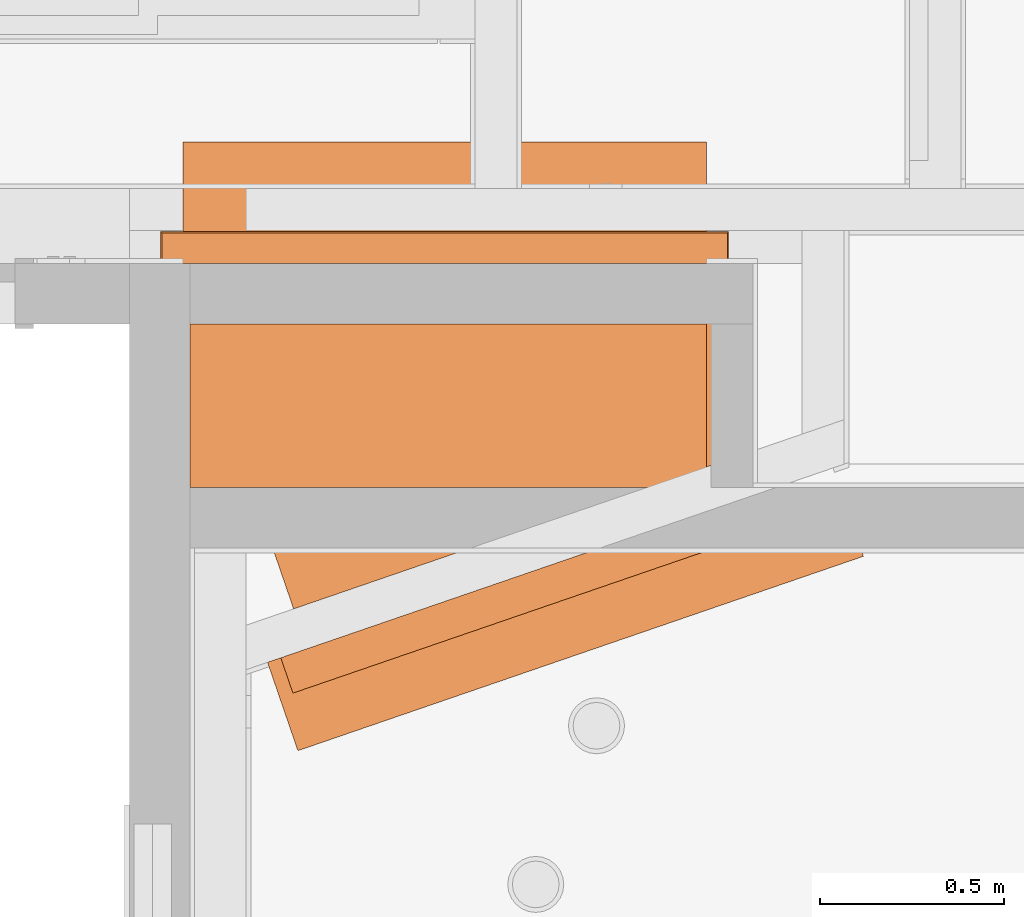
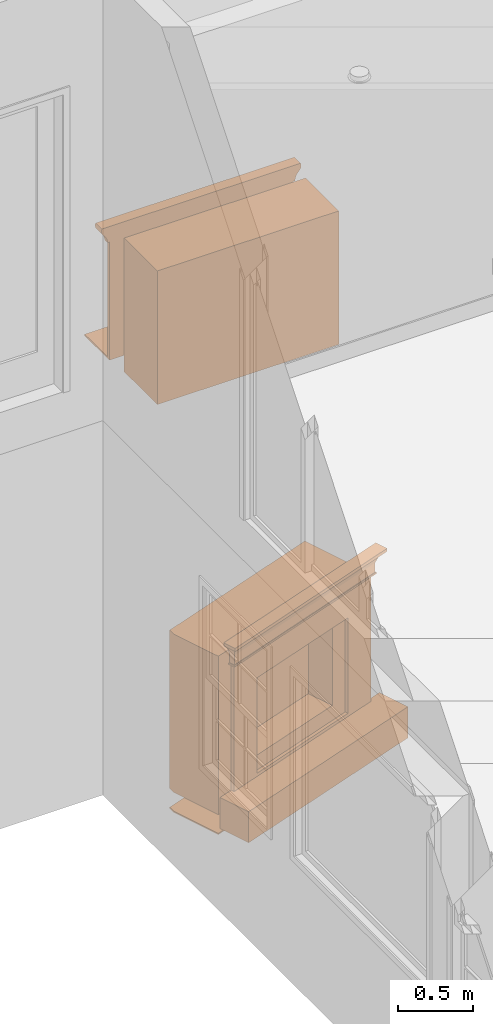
# One storey, part 76 of 81: 2 proxies.
"""IFC2X3 building model written with IfcOpenShell, lengths in feet."""

from ifc_helpers import new_model, entity, si_unit, converted_unit, derived_unit, direction, frame, origin, place, context, subcontext, project, spatial, faceted_brep, source, transform, mapped, material, material_list, type_object, type_shapes, element, save


model = new_model("IFC2X3")

# Units and contexts
model_context = context("Model", 3, precision=0.0001, world=origin(), true_north=direction((6.12303176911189e-17, 1.0)))
body_context = subcontext(model_context, "Body", "Model", "MODEL_VIEW")
ifc_project = project(units=[converted_unit("LENGTHUNIT", "FOOT", entity("IfcRatioMeasure", 0.3048), si_unit("LENGTHUNIT", "METRE"), dimensions=[1, 0, 0, 0, 0, 0, 0]), converted_unit("AREAUNIT", "SQUARE FOOT", entity("IfcRatioMeasure", 0.09290304), si_unit("AREAUNIT", "SQUARE_METRE"), dimensions=[2, 0, 0, 0, 0, 0, 0]), converted_unit("VOLUMEUNIT", "CUBIC FOOT", entity("IfcRatioMeasure", 0.028316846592), si_unit("VOLUMEUNIT", "CUBIC_METRE"), dimensions=[3, 0, 0, 0, 0, 0, 0]), converted_unit("PLANEANGLEUNIT", "DEGREE", entity("IfcRatioMeasure", 0.0174532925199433), si_unit("PLANEANGLEUNIT", "RADIAN"), dimensions=[0, 0, 0, 0, 0, 0, 0]), si_unit("MASSUNIT", "GRAM", prefix="KILO"), derived_unit("MASSDENSITYUNIT", [(si_unit("MASSUNIT", "GRAM", prefix="KILO"), 1), (si_unit("LENGTHUNIT", "METRE"), -3)]), derived_unit("MOMENTOFINERTIAUNIT", [(si_unit("LENGTHUNIT", "METRE"), 4)]), si_unit("TIMEUNIT", "SECOND"), si_unit("FREQUENCYUNIT", "HERTZ"), si_unit("THERMODYNAMICTEMPERATUREUNIT", "DEGREE_CELSIUS"), derived_unit("THERMALTRANSMITTANCEUNIT", [(si_unit("MASSUNIT", "GRAM", prefix="KILO"), 1), (si_unit("THERMODYNAMICTEMPERATUREUNIT", "KELVIN"), -1), (si_unit("TIMEUNIT", "SECOND"), -3)]), derived_unit("VOLUMETRICFLOWRATEUNIT", [(si_unit("LENGTHUNIT", "METRE"), 3), (si_unit("TIMEUNIT", "SECOND"), -1)]), si_unit("ELECTRICCURRENTUNIT", "AMPERE"), si_unit("ELECTRICVOLTAGEUNIT", "VOLT"), si_unit("POWERUNIT", "WATT"), si_unit("FORCEUNIT", "NEWTON"), si_unit("ILLUMINANCEUNIT", "LUX"), si_unit("LUMINOUSFLUXUNIT", "LUMEN"), si_unit("LUMINOUSINTENSITYUNIT", "CANDELA"), derived_unit("USERDEFINED", [(si_unit("MASSUNIT", "GRAM", prefix="KILO"), -1), (si_unit("LENGTHUNIT", "METRE"), -2), (si_unit("TIMEUNIT", "SECOND"), 3), (si_unit("LUMINOUSFLUXUNIT", "LUMEN"), 1)]), derived_unit("LINEARVELOCITYUNIT", [(si_unit("LENGTHUNIT", "METRE"), 1), (si_unit("TIMEUNIT", "SECOND"), -1)]), si_unit("PRESSUREUNIT", "PASCAL"), derived_unit("USERDEFINED", [(si_unit("LENGTHUNIT", "METRE"), -2), (si_unit("MASSUNIT", "GRAM", prefix="KILO"), 1), (si_unit("TIMEUNIT", "SECOND"), -2)]), derived_unit("LINEARFORCEUNIT", [(si_unit("MASSUNIT", "GRAM", prefix="KILO"), 1), (si_unit("LENGTHUNIT", "METRE"), 1), (si_unit("TIMEUNIT", "SECOND"), -2), (si_unit("LENGTHUNIT", "METRE"), -1)]), derived_unit("PLANARFORCEUNIT", [(si_unit("MASSUNIT", "GRAM", prefix="KILO"), 1), (si_unit("LENGTHUNIT", "METRE"), 1), (si_unit("TIMEUNIT", "SECOND"), -2), (si_unit("LENGTHUNIT", "METRE"), -2)])], contexts=[model_context])

# Site, building, storey
site_placement = place(None, origin())
site = spatial("IfcSite", under=ifc_project, at=site_placement, Name="Default", CompositionType="ELEMENT")
building_placement = place(site_placement, origin())
building = spatial("IfcBuilding", under=site, at=building_placement, CompositionType="ELEMENT")
storey_placement = place(building_placement, origin())
storey = spatial("IfcBuildingStorey", under=building, at=storey_placement, Name="First floor", CompositionType="ELEMENT", Elevation=0.0)

# Proxies
ifc_material_1 = material(Name="Default New Material")
building_element_proxy_type_1 = type_object("IfcBuildingElementProxyType", Name="Generic Models 4:Generic Models 4", PredefinedType="NOTDEFINED", material=ifc_material_1)
shared_shape_1 = source(origin(), body_context, "Body", "Brep", [
    faceted_brep([(0.309373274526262, 0.82869384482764, 5.44954427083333), (0.417733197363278, 0.513464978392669, 5.44954427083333), (5.22497341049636, 2.16595380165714, 5.44954427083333), (5.11661348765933, 2.48118266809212, 5.44954427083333), (0.309373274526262, 0.82869384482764, 5.3662109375), (5.11661348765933, 2.48118266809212, 5.3662109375), (5.22497341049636, 2.16595380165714, 5.3662109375), (0.417733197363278, 0.513464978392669, 5.3662109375)], [[[0, 1, 2, 3]], [[4, 5, 6, 7]], [[1, 0, 4, 7]], [[2, 1, 7, 6]], [[3, 2, 6, 5]], [[0, 3, 5, 4]]]),
    faceted_brep([(0.388180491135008, 0.855783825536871, 5.3662109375), (0.545794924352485, 0.909963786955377, 5.3662109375), (0.545794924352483, 0.909963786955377, 4.78287760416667), (0.466987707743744, 0.882873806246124, 4.78287760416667), (0.466987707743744, 0.882873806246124, 4.82454427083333), (0.486689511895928, 0.889646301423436, 4.82454427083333), (0.486689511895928, 0.889646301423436, 5.07454427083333), (0.469450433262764, 0.619362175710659, 5.3662109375), (5.11907621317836, 2.21767103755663, 5.3662109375), (5.0378062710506, 2.45409268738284, 5.3662109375), (4.88019183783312, 2.39991272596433, 5.3662109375), (4.90728181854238, 2.3211055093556, 5.3662109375), (0.572884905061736, 0.831156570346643, 5.3662109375), (0.572884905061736, 0.831156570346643, 4.78287760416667), (4.90728181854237, 2.3211055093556, 4.78287760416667), (4.88019183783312, 2.39991272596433, 4.78287760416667), (4.95899905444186, 2.42700270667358, 4.78287760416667), (5.01317901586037, 2.26938827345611, 4.78287760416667), (0.521167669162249, 0.725259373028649, 4.78287760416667), (0.521167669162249, 0.725259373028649, 4.82454427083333), (5.01317901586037, 2.26938827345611, 4.82454427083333), (4.95899905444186, 2.42700270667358, 4.82454427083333), (4.93929725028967, 2.42023021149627, 4.82454427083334), (4.98670471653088, 2.28231758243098, 4.82454427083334), (0.53409697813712, 0.751733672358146, 4.82454427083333), (0.53409697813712, 0.751733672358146, 5.07454427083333), (4.98670471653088, 2.28231758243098, 5.07454427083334), (4.93929725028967, 2.42023021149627, 5.07454427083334)], [[[0, 1, 2, 3, 4, 5, 6]], [[1, 0, 7, 8, 9, 10, 11, 12]], [[2, 1, 12, 13]], [[3, 2, 13, 14, 15, 16, 17, 18]], [[4, 3, 18, 19]], [[5, 4, 19, 20, 21, 22, 23, 24]], [[6, 5, 24, 25]], [[0, 6, 25, 7]], [[13, 12, 11, 14]], [[19, 18, 17, 20]], [[25, 24, 23, 26]], [[7, 25, 26, 8]], [[9, 27, 22, 21, 16, 15, 10]], [[14, 11, 10, 15]], [[20, 17, 16, 21]], [[26, 23, 22, 27]], [[8, 26, 27, 9]]]),
    faceted_brep([(4.88019183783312, 2.39991272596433, 5.3662109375), (0.545794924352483, 0.90996378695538, 5.3662109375), (0.572884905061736, 0.831156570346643, 5.3662109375), (4.90728181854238, 2.3211055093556, 5.3662109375), (4.88019183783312, 2.39991272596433, 4.78287760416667), (4.90728181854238, 2.3211055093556, 4.78287760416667), (0.572884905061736, 0.831156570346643, 4.78287760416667), (0.545794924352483, 0.90996378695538, 4.78287760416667)], [[[0, 1, 2, 3]], [[4, 5, 6, 7]], [[1, 0, 4, 7]], [[2, 1, 7, 6]], [[3, 2, 6, 5]], [[0, 3, 5, 4]]]),
    faceted_brep([(4.75828692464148, 2.75454520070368, 0.0), (0.423890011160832, 1.26459626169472, 0.0), (0.0, 2.49773083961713, 0.0), (0.0, 2.66978546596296, 0.0), (4.28150326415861, 4.14155221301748, 0.0), (4.75828692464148, 2.75454520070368, 0.032877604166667), (0.423890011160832, 1.26459626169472, 0.0328776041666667), (0.0, 2.49773083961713, 0.0328776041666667), (0.0, 2.66978546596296, 0.0328776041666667), (4.28150326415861, 4.14155221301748, 0.0328776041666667)], [[[0, 1, 2, 3, 4]], [[1, 0, 5, 6]], [[2, 1, 6, 7]], [[3, 2, 7, 8]], [[4, 3, 8, 9]], [[0, 4, 9, 5]], [[6, 5, 9, 8, 7]]]),
    faceted_brep([(4.75828692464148, 2.75454520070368, 4.78287760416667), (4.28150326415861, 4.14155221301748, 4.78287760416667), (0.0, 2.66978546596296, 4.78287760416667), (0.0, 2.49773083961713, 4.78287760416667), (0.423890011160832, 1.26459626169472, 4.78287760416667), (0.926655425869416, 2.17321884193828, 1.44954427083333), (3.80311883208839, 3.16200313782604, 1.44954427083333), (3.80311883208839, 3.16200313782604, 4.01204427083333), (0.926655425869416, 2.17321884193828, 4.01204427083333), (1.15285676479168, 1.51517858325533, 4.01204427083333), (1.15285676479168, 1.51517858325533, 1.44954427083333), (4.02932017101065, 2.50396287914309, 4.01204427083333), (4.02932017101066, 2.50396287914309, 1.44954427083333), (4.75828692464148, 2.75454520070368, 0.532877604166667), (0.423890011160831, 1.26459626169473, 0.532877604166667), (0.0, 2.49773083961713, 0.532877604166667), (0.0, 2.66978546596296, 0.532877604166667), (4.28150326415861, 4.14155221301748, 0.532877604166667)], [[[0, 1, 2, 3, 4]], [[5, 6, 7, 8]], [[9, 10, 5, 8]], [[11, 9, 8, 7]], [[12, 11, 7, 6]], [[10, 12, 6, 5]], [[13, 14, 15, 16, 17]], [[0, 4, 14, 13], [10, 9, 11, 12]], [[4, 3, 15, 14]], [[3, 2, 16, 15]], [[2, 1, 17, 16]], [[1, 0, 13, 17]]]),
    faceted_brep([(1.30185165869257, 1.08173889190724, 4.01204427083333), (4.17831506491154, 2.070523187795, 4.01204427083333), (4.17831506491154, 2.070523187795, 1.44954427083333), (1.30185165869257, 1.08173889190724, 1.44954427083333), (4.90728181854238, 2.3211055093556, 4.78287760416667), (0.572884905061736, 0.831156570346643, 4.78287760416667), (0.572884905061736, 0.831156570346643, 1.3662109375), (4.90728181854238, 2.3211055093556, 1.3662109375), (4.88019183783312, 2.39991272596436, 4.78287760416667), (4.88019183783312, 2.39991272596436, 1.3662109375), (0.545794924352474, 0.909963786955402, 1.3662109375), (0.545794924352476, 0.909963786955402, 4.78287760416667), (1.27476167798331, 1.160546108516, 4.01204427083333), (1.27476167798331, 1.160546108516, 1.44954427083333), (4.15122508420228, 2.14933040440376, 1.44954427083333), (4.15122508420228, 2.14933040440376, 4.01204427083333)], [[[0, 1, 2, 3], [4, 5, 6, 7]], [[8, 9, 10, 11], [12, 13, 14, 15]], [[1, 0, 12, 15]], [[2, 1, 15, 14]], [[4, 7, 9, 8]], [[5, 4, 8, 11]], [[6, 5, 11, 10]], [[7, 6, 10, 9]], [[0, 3, 13, 12]], [[3, 2, 14, 13]]], outer=[[False, True], [True, False], [True], [True], [True], [True], [True], [True], [True], [True]]),
    faceted_brep([(5.23486298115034, 2.52183093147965, 1.3662109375), (0.191201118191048, 0.788072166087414, 1.3662109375), (0.462100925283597, 0.0, 1.3662109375), (5.50576278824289, 1.73375876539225, 1.3662109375), (5.23486298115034, 2.52183093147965, 0.532877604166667), (5.50576278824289, 1.73375876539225, 0.532877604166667), (0.462100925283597, 0.0, 0.532877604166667), (0.191201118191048, 0.788072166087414, 0.532877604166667)], [[[0, 1, 2, 3]], [[4, 5, 6, 7]], [[1, 0, 4, 7]], [[2, 1, 7, 6]], [[3, 2, 6, 5]], [[0, 3, 5, 4]]]),
])
type_shapes(building_element_proxy_type_1, [shared_shape_1])
proxy_1_placement = place(storey_placement, frame((-16.0, 27.2359865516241, -0.532877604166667)))
element("IfcBuildingElementProxy", 1, at=proxy_1_placement, inside=storey, type_object=building_element_proxy_type_1, material=ifc_material_1, Name="Generic Models 4:Generic Models 4", ObjectType="Generic Models 4:Generic Models 4", context=body_context, shape_type="MappedRepresentation", body=[
    mapped(shared_shape_1, transform((0.0, 0.0, 0.0), scale=1.0)),
])
ifc_material_2 = material(Name="Glass")
ifc_material_list = material_list([ifc_material_1, ifc_material_2])
building_element_proxy_type_2 = type_object("IfcBuildingElementProxyType", Name="Generic Models 16:Generic Models 16", PredefinedType="NOTDEFINED", material=ifc_material_1)
shared_shape_2 = source(origin(), body_context, "Body", "Brep", [
    faceted_brep([(4.92932867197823, 2.0, 3.25039356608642), (4.96531326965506, 2.0, 3.32756278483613), (5.01949821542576, 2.0, 3.39324361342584), (5.04591588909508, 2.0, 3.42493642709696), (5.06392111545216, 2.0, 3.46205973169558), (5.07245346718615, 2.0, 3.50242713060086), (5.07101042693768, 2.0, 3.54366116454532), (5.05967698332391, 2.0, 3.58333333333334), (4.87217698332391, 2.0, 3.58333333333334), (4.87217698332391, 2.0, 3.16666666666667), (4.91384364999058, 2.0, 3.16666666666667), (0.163843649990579, 2.0, 3.16666666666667), (0.205510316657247, 2.0, 3.16666666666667), (0.205510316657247, 2.0, 3.58333333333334), (0.0180103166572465, 2.0, 3.58333333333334), (0.00667687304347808, 2.0, 3.54366116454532), (0.00523383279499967, 2.0, 3.50242713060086), (0.0137661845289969, 2.0, 3.46205973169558), (0.0317714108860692, 2.0, 3.42493642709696), (0.0581890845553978, 2.0, 3.39324361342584), (0.112374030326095, 2.0, 3.32756278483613), (0.148358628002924, 2.0, 3.25039356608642), (5.05967698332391, 2.27083333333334, 3.58333333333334), (4.23502797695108, 2.27083333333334, 3.58333333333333), (3.31661472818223, 2.27083333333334, 3.58333333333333), (2.4919657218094, 2.27083333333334, 3.58333333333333), (1.66731671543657, 2.27083333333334, 3.58333333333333), (0.842667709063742, 2.27083333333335, 3.58333333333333), (0.0180103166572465, 2.27083333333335, 3.58333333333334), (0.205510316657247, 2.08333333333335, 3.58333333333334), (4.87217698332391, 2.08333333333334, 3.58333333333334), (4.87217698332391, 2.08333333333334, 3.16666666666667), (0.205510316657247, 2.08333333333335, 3.16666666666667), (0.163843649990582, 2.12500000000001, 3.16666666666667), (1.32461819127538, 2.12500000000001, 3.16666666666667), (2.48539273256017, 2.12500000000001, 3.16666666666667), (3.69961819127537, 2.12500000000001, 3.16666666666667), (4.91384364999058, 2.125, 3.16666666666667), (4.92932867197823, 2.14048502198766, 3.25039356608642), (4.96531326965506, 2.17646961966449, 3.32756278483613), (5.01949821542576, 2.23065456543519, 3.39324361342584), (5.04591588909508, 2.25707223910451, 3.42493642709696), (5.06392111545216, 2.27507746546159, 3.46205973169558), (5.07245346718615, 2.28360981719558, 3.50242713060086), (5.07101042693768, 2.2821667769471, 3.54366116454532), (3.89571661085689, 2.13903036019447, 3.24572996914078), (3.14901781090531, 2.15769583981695, 3.2936405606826), (4.07383977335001, 2.1646723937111, 3.30735001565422), (1.58060882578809, 2.1573700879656, 3.29296061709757), (1.54576121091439, 2.19063725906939, 3.3482584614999), (2.43126766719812, 2.18344097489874, 3.33815965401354), (3.43625839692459, 2.18941207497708, 3.34659374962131), (2.88500770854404, 2.13467776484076, 3.23006162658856), (3.69961817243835, 2.23065456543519, 3.39324361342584), (4.1948472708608, 2.23065456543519, 3.39324361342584), (0.112374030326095, 2.1764696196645, 3.32756278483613), (0.0581890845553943, 2.2306545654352, 3.39324361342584), (0.882840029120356, 2.2306545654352, 3.39324361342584), (1.21896360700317, 2.2306545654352, 3.39324361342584), (0.99346050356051, 2.13387689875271, 3.22681516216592), (1.90500542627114, 2.13391990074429, 3.22699306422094), (0.148358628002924, 2.14048502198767, 3.25039356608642), (2.37973812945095, 2.23065456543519, 3.39324361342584), (2.54554538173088, 2.2306545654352, 3.39324361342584), (3.37019632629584, 2.23065456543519, 3.39324361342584), (1.72089443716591, 2.2306545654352, 3.39324361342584), (0.901933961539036, 2.28064880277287, 3.48234540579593), (0.00523383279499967, 2.2836098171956, 3.50242713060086), (1.32202805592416, 2.28414699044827, 3.52299594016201), (2.40258667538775, 2.27092336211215, 3.45116389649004), (3.68492394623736, 2.26772398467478, 3.44402919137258), (2.67861162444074, 2.25638629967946, 3.42388240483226), (4.16004139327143, 2.28065013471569, 3.48235177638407), (3.27510254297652, 2.28173955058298, 3.48804591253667), (3.70707804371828, 2.28414710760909, 3.52299253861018), (0.00667687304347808, 2.28216677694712, 3.54366116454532), (0.0317714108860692, 2.25707223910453, 3.42493642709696), (0.59997158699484, 2.26742468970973, 3.44340415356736), (1.30186705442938, 2.24989333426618, 3.41466685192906), (4.34426307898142, 2.26139987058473, 3.43201357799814), (0.0137661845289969, 2.2750774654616, 3.46205973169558), (1.64513818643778, 2.28068203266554, 3.48250470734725), (3.80080876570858, 2.27960463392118, 3.55660372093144), (4.36465465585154, 2.28313587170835, 3.53655450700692), (2.37750668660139, 2.28209713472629, 3.54409847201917), (2.74928197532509, 2.28421074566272, 3.51359226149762), (2.01241839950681, 2.28414446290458, 3.511214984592), (1.25498690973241, 2.27965746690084, 3.55638165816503), (3.7825216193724, 2.25003987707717, 3.41486113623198), (1.94871430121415, 2.2588276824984, 3.42771436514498), (3.1110482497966, 2.2823965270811, 3.54216297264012), (1.33899254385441, 2.26770376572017, 3.44398676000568), (2.38828253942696, 2.28077372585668, 3.48294829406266)], [[[0, 1, 2, 3, 4, 5, 6, 7, 8, 9, 10]], [[11, 12, 13, 14, 15, 16, 17, 18, 19, 20, 21]], [[8, 7, 22, 23, 24, 25, 26, 27, 28, 14, 13, 29, 30]], [[9, 8, 30, 31]], [[31, 30, 29, 32]], [[32, 29, 13, 12]], [[12, 11, 33, 34, 35, 36, 37, 10, 9, 31, 32]], [[37, 38, 0, 10]], [[38, 39, 1, 0]], [[39, 40, 2, 1]], [[3, 2, 40, 41]], [[4, 3, 41, 42]], [[42, 43, 5, 4]], [[5, 43, 44, 6]], [[6, 44, 22, 7]], [[45, 46, 47]], [[48, 49, 50]], [[47, 46, 51]], [[48, 46, 52]], [[39, 53, 54, 40]], [[55, 56, 57, 58]], [[59, 60, 34]], [[59, 34, 33]], [[52, 46, 45]], [[49, 48, 55]], [[55, 48, 61]], [[52, 35, 60]], [[52, 60, 48]], [[50, 62, 51]], [[51, 46, 50]], [[37, 45, 38]], [[34, 60, 35]], [[61, 48, 59]], [[52, 36, 35]], [[45, 37, 36]], [[52, 45, 36]], [[39, 38, 47]], [[45, 47, 38]], [[53, 39, 51]], [[47, 51, 39]], [[51, 62, 63, 64, 53]], [[49, 58, 65, 62]], [[50, 46, 48]], [[60, 59, 48]], [[61, 59, 33]], [[50, 49, 62]], [[58, 49, 55]], [[66, 67, 68]], [[69, 70, 71]], [[72, 73, 74]], [[67, 75, 68]], [[76, 77, 78]], [[42, 41, 79]], [[76, 80, 77]], [[67, 66, 80]], [[68, 81, 66]], [[76, 57, 56]], [[41, 40, 54]], [[82, 83, 74]], [[84, 85, 86]], [[72, 43, 42]], [[72, 83, 43]], [[68, 87, 84]], [[72, 74, 83]], [[44, 23, 22]], [[75, 28, 27]], [[71, 70, 88]], [[89, 63, 62, 65]], [[88, 54, 53, 64]], [[87, 27, 26]], [[90, 25, 24]], [[79, 72, 42]], [[70, 69, 73]], [[68, 86, 81]], [[77, 66, 91]], [[71, 88, 64]], [[82, 74, 90]], [[78, 65, 58, 57]], [[88, 79, 54]], [[27, 87, 75]], [[79, 88, 70]], [[89, 65, 78]], [[71, 89, 69]], [[79, 70, 72]], [[54, 79, 41]], [[76, 78, 57]], [[89, 78, 91]], [[91, 81, 69]], [[71, 63, 89]], [[91, 69, 89]], [[69, 92, 73]], [[84, 87, 26]], [[75, 87, 68]], [[74, 85, 90]], [[74, 73, 85]], [[70, 73, 72]], [[85, 73, 92]], [[86, 85, 92]], [[85, 84, 90]], [[86, 92, 81]], [[84, 86, 68]], [[69, 81, 92]], [[91, 66, 81]], [[90, 84, 25]], [[82, 24, 23]], [[24, 82, 90]], [[83, 23, 44]], [[23, 83, 82]], [[43, 83, 44]], [[66, 77, 80]], [[78, 77, 91]], [[71, 64, 63]], [[84, 26, 25]], [[21, 61, 33, 11]], [[21, 20, 55, 61]], [[19, 56, 55, 20]], [[56, 19, 18, 76]], [[76, 18, 17, 80]], [[17, 16, 67, 80]], [[75, 67, 16, 15]], [[28, 75, 15, 14]]]),
    faceted_brep([(0.205510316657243, 2.08333333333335, 0.0416666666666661), (4.87217698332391, 2.08333333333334, 0.0416666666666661), (4.87217698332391, 3.08333333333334, 0.0416666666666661), (0.205510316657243, 3.08333333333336, 0.0416666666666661), (0.205510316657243, 2.08333333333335, 0.0), (0.205510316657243, 3.08333333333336, 0.0), (4.87217698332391, 3.08333333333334, 0.0), (4.87217698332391, 2.08333333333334, 0.0)], [[[0, 1, 2, 3]], [[4, 5, 6, 7]], [[1, 0, 4, 7]], [[2, 1, 7, 6]], [[3, 2, 6, 5]], [[0, 3, 5, 4]]]),
    faceted_brep([(3.95551031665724, 1.89583333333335, 2.1875), (1.12217698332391, 1.89583333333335, 2.1875), (1.12217698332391, 1.89583333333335, 0.416666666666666), (3.95551031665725, 1.89583333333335, 0.416666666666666), (3.95551031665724, 1.93750000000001, 2.1875), (3.95551031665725, 1.93750000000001, 0.416666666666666), (1.12217698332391, 1.93750000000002, 0.416666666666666), (1.12217698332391, 1.93750000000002, 2.1875)], [[[0, 1, 2, 3]], [[4, 5, 6, 7]], [[5, 4, 0, 3]], [[6, 5, 3, 2]], [[7, 6, 2, 1]], [[4, 7, 1, 0]]]),
    faceted_brep([(0.955510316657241, 1.83333333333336, 2.52083333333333), (0.955510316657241, 1.83333333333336, 0.145833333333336), (4.12217698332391, 1.83333333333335, 0.145833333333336), (4.12217698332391, 1.83333333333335, 2.52083333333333), (3.95551031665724, 1.83333333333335, 2.1875), (3.95551031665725, 1.83333333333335, 0.416666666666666), (1.12217698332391, 1.83333333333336, 0.416666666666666), (1.12217698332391, 1.83333333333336, 2.1875), (0.955510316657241, 2.0, 2.52083333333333), (4.12217698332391, 2.0, 2.52083333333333), (4.12217698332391, 2.0, 0.145833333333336), (0.955510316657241, 2.0, 0.145833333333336), (3.95551031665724, 2.0, 2.1875), (1.12217698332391, 2.0, 2.1875), (1.1221769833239, 2.0, 0.416666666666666), (3.95551031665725, 2.0, 0.416666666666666)], [[[0, 1, 2, 3], [4, 5, 6, 7]], [[8, 9, 10, 11], [12, 13, 14, 15]], [[1, 0, 8, 11]], [[2, 1, 11, 10]], [[3, 2, 10, 9]], [[0, 3, 9, 8]], [[5, 4, 12, 15]], [[6, 5, 15, 14]], [[7, 6, 14, 13]], [[4, 7, 13, 12]]]),
    faceted_brep([(4.8721769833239, 0.0, 0.0), (4.87217698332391, 0.0, 3.58333333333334), (0.267999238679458, 0.0, 3.58333333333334), (0.267999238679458, 0.0, 0.0), (4.87217698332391, 1.45833333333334, 3.58333333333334), (4.87217698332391, 1.45833333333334, 0.0), (0.267999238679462, 1.45833333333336, 0.0), (0.267999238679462, 1.45833333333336, 3.58333333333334), (4.12217698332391, 1.45833333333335, 0.145833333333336), (4.12217698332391, 1.45833333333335, 2.52083333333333), (0.955510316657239, 1.45833333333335, 2.52083333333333), (0.955510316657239, 1.45833333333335, 0.145833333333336), (4.12217698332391, 1.30898037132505, 0.145833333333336), (0.955510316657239, 1.30898037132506, 0.145833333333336), (0.955510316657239, 1.30898037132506, 2.52083333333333), (4.12217698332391, 1.30898037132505, 2.52083333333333)], [[[0, 1, 2, 3]], [[4, 5, 6, 7], [8, 9, 10, 11]], [[1, 0, 5, 4]], [[5, 0, 3, 6]], [[1, 4, 7, 2]], [[12, 13, 14, 15]], [[9, 8, 12, 15]], [[10, 9, 15, 14]], [[11, 10, 14, 13]], [[8, 11, 13, 12]], [[3, 2, 7, 6]]]),
    faceted_brep([(4.12217698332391, 2.08333333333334, 0.145833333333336), (4.12217698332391, 2.08333333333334, 2.52083333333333), (0.955510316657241, 2.08333333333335, 2.52083333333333), (0.955510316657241, 2.08333333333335, 0.145833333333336), (4.87217698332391, 2.08333333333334, 0.0), (0.205510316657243, 2.08333333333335, 0.0), (0.205510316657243, 2.08333333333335, 3.58333333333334), (4.87217698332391, 2.08333333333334, 3.58333333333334), (4.12217698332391, 2.0, 0.145833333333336), (0.955510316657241, 2.0, 0.145833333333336), (0.955510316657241, 2.0, 2.52083333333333), (4.12217698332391, 2.0, 2.52083333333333), (4.87217698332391, 2.0, 0.0), (4.87217698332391, 2.0, 3.58333333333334), (0.205510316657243, 2.0, 3.58333333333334), (0.205510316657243, 2.0, 0.0)], [[[0, 1, 2, 3], [4, 5, 6, 7]], [[8, 9, 10, 11], [12, 13, 14, 15]], [[0, 3, 9, 8]], [[3, 2, 10, 9]], [[2, 1, 11, 10]], [[1, 0, 8, 11]], [[5, 4, 12, 15]], [[6, 5, 15, 14]], [[7, 6, 14, 13]], [[4, 7, 13, 12]]], outer=[[False, True], [False, True], [True], [True], [True], [True], [True], [True], [True], [True]]),
])
type_shapes(building_element_proxy_type_2, [shared_shape_2])
proxy_2_placement = place(storey_placement, frame((-16.7679992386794, 29.5833333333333, 10.6666666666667)))
element("IfcBuildingElementProxy", 2, at=proxy_2_placement, inside=storey, type_object=building_element_proxy_type_2, material=ifc_material_list, Name="Generic Models 16:Generic Models 16", ObjectType="Generic Models 16:Generic Models 16", context=body_context, shape_type="MappedRepresentation", body=[
    mapped(shared_shape_2, transform((0.0, 0.0, 0.0), scale=1.0)),
])

save(model, "model.ifc")
